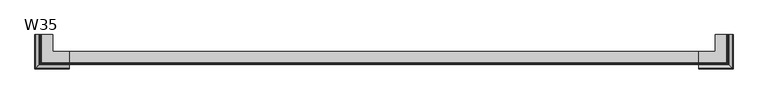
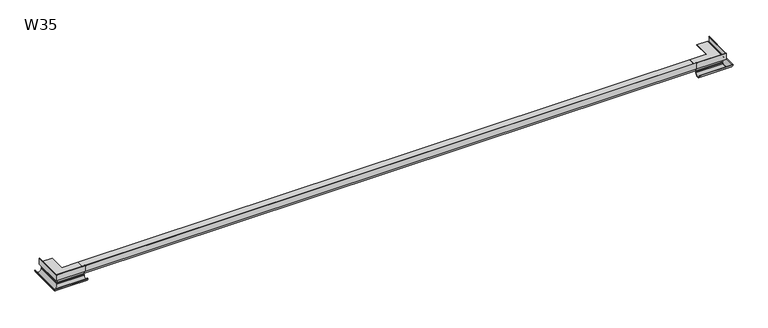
"""IFC4 building model written with IfcOpenShell, lengths in millimetres: proxy geometry, W35 Profil okapowy prosty z rynną : W35."""

from ifc_helpers import new_model, si_unit, point, frame, frame_2d, origin, place, context, project, spatial, polyline, circle_curve, ellipse_curve, trimmed, segment, composite_curve, outline, extrude, source, transform, mapped, element, save
from ifc_brep_helpers import plane_surface, cylinder_surface, revolved_surface, advanced_brep


def w35_59df81f5(model_context):
    return source(origin(), model_context, "Body", "SolidModel", [
        advanced_brep(
        [(4906.833631, -6.5000001, -78.3470452), (4906.833631, -5.0999988, -76.9470438), (4906.833631, -5.0999988, -82.0662981), (4906.833631, -7.6128151, -84.4111711), (4906.833631, -8.1261224, -88.0635409), (4906.833631, -4.8412617, -86.6692004), (4906.833631, -5.621057, -88.6176262), (4906.833631, -8.427087, -90.2030013), (4906.833631, -58.1999995, -86.8410366), (4906.833631, -56.7240776, -88.7325307), (4906.833631, -9.7348852, -89.3606424), (4906.833631, -8.8685397, -83.6069515), (4906.833631, -6.5000001, -81.3112902), (5114.9597534, -8.1261224, -88.0635409), (5111.6748927, -4.8412617, -86.6692004), (5112.454688, -5.621057, -88.6176262), (5115.260718, -8.427087, -90.2030013), (5165.0336305, -58.1999995, -86.8410366), (5163.5577086, -56.7240776, -88.7325307), (5116.5685163, -9.7348852, -89.3606424), (5115.7021707, -8.8685397, -83.6069515), (5114.4464461, -7.6128151, -84.4111711), (5113.3336312, 200.0, -78.3470452), (5113.3336312, 200.0, -81.3112902), (5115.7021707, 200.0, -83.6069515), (5116.5685163, 200.0, -89.3606424), (5163.5577086, 200.0, -88.7325307), (5165.0336305, 200.0, -86.8410366), (5115.260718, 200.0, -90.2030013), (5112.454688, 200.0, -88.6176262), (5111.6748927, 200.0, -86.6692004), (5114.9597534, 200.0, -88.0635409), (5114.4464461, 200.0, -84.4111711), (5111.9336298, 200.0, -82.0662981), (5111.9336298, 200.0, -76.9470438), (5113.3336312, -6.5000001, -78.3470452), (5111.9336298, -5.0999988, -76.9470438), (5111.9336298, -5.0999988, -82.0662981), (5113.3336312, -6.5000001, -81.3112902)],
        [
            (0, 1),
            (1, 2),
            (2, 3),
            (3, 4),
            (4, 5),
            (5, 6),
            (6, 7),
            (7, 8, circle_curve(frame((4906.833631, -33.1999995, -86.8410366), z_axis=(-1.0, 0.0, 0.0), x_axis=(0.0, -1.0, 0.0)), 25.0)),
            (8, 9, circle_curve(frame((4906.833631, -56.2499995, -86.8410366), z_axis=(-1.0, 0.0, 0.0), x_axis=(0.0, -1.0, 0.0)), 1.95)),
            (9, 10, circle_curve(frame((4906.833631, -33.1999995, -86.8410366), z_axis=(1.0, 0.0, 0.0), x_axis=(0.0, -1.0, 0.0)), 23.6)),
            (10, 11),
            (11, 12),
            (12, 0),
            (4, 13),
            (13, 14),
            (14, 5),
            (14, 15),
            (15, 6),
            (15, 16),
            (16, 7),
            (16, 17, ellipse_curve(frame((5140.0336305, -33.1999995, -86.8410366), z_axis=(-0.7071067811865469, -0.707106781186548, 0.0), x_axis=(-0.7071067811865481, 0.7071067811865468, 0.0)), 35.3553391, 25.0)),
            (17, 8),
            (17, 18, ellipse_curve(frame((5163.0836305, -56.2499995, -86.8410366), z_axis=(-0.7071067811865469, -0.707106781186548, 0.0), x_axis=(-0.7071067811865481, 0.7071067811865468, 0.0)), 2.7577164, 1.95)),
            (18, 9),
            (18, 19, ellipse_curve(frame((5140.0336305, -33.1999995, -86.8410366), z_axis=(0.7071067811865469, 0.707106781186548, 0.0), x_axis=(0.7071067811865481, -0.7071067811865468, 0.0)), 33.3754401, 23.6)),
            (19, 10),
            (19, 20),
            (20, 11),
            (3, 21),
            (21, 13),
            (22, 23),
            (23, 24),
            (24, 25),
            (25, 26, circle_curve(frame((5140.0336305, 200.0, -86.8410366), z_axis=(0.0, -1.0, 0.0), x_axis=(1.0, 0.0, 0.0)), 23.6)),
            (26, 27, circle_curve(frame((5163.0836305, 200.0, -86.8410366), z_axis=(0.0, 1.0, 0.0), x_axis=(1.0, 0.0, 0.0)), 1.95)),
            (27, 28, circle_curve(frame((5140.0336305, 200.0, -86.8410366), z_axis=(0.0, 1.0, 0.0), x_axis=(1.0, 0.0, 0.0)), 25.0)),
            (28, 29),
            (29, 30),
            (30, 31),
            (31, 32),
            (32, 33),
            (33, 34),
            (34, 22),
            (13, 31),
            (30, 14),
            (29, 15),
            (28, 16),
            (27, 17),
            (26, 18),
            (25, 19),
            (24, 20),
            (21, 32),
            (0, 35),
            (35, 36),
            (36, 1),
            (36, 37),
            (37, 2),
            (37, 21),
            (20, 38),
            (38, 12),
            (38, 35),
            (35, 22),
            (34, 36),
            (33, 37),
            (23, 38),
        ],
        [
            plane_surface(frame((4906.833631, 0.0, -36.1934933), z_axis=(-1.0, 0.0, 0.0), x_axis=(0.0, 0.0, 1.0))),
            plane_surface(frame((4906.833631, -4.8412617, -86.6692004), z_axis=(0.0, -0.3907310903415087, 0.9205048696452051), x_axis=(1.0, 0.0, 0.0))),
            plane_surface(frame((4906.833631, -5.621057, -88.6176262), z_axis=(0.0, 0.9284068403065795, -0.37156525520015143), x_axis=(1.0, 0.0, 0.0))),
            plane_surface(frame((4906.833631, -8.427087, -90.2030013), z_axis=(0.0, 0.49190631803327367, -0.8706481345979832), x_axis=(1.0, 0.0, 0.0))),
            cylinder_surface(frame((4906.833631, -33.1999995, -86.8410366), z_axis=(-1.0, 0.0, 0.0), x_axis=(0.0, -1.0, 0.0)), 25.0),
            cylinder_surface(frame((4906.833631, -56.2499995, -86.8410366), z_axis=(-1.0, 0.0, 0.0), x_axis=(0.0, -1.0, 0.0)), 1.95),
            revolved_surface(polyline([(5163.633630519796, -56.7999995, -86.8410366), (4906.833631, -56.7999995, -86.8410366)]), (4906.833631, -33.1999995, -86.8410366), (1.0, 0.0, 0.0)),
            plane_surface(frame((4906.833631, -8.8685397, -83.6069515), z_axis=(0.0, -0.9888532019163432, 0.14889373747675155), x_axis=(1.0, 0.0, 0.0))),
            plane_surface(frame((4906.833631, -8.1261224, -88.0635409), z_axis=(0.0, 0.9902680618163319, -0.13917315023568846), x_axis=(1.0, 0.0, 0.0))),
            plane_surface(frame((5106.833631, 200.0, -36.1934933), z_axis=(0.0, 1.0, 0.0), x_axis=(0.0, 0.0, 1.0))),
            plane_surface(frame((5111.6748927, -4.8412617, -86.6692004), z_axis=(0.3907310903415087, 0.0, 0.9205048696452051), x_axis=(0.0, 1.0, 0.0))),
            plane_surface(frame((5112.454688, -5.621057, -88.6176262), z_axis=(-0.9284068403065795, 0.0, -0.37156525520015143), x_axis=(0.0, 1.0, 0.0))),
            plane_surface(frame((5115.260718, -8.427087, -90.2030013), z_axis=(-0.49190631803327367, 0.0, -0.8706481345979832), x_axis=(0.0, 1.0, 0.0))),
            cylinder_surface(frame((5140.0336305, 0.0, -86.8410366), z_axis=(0.0, -1.0, 0.0), x_axis=(1.0, 0.0, 0.0)), 25.0),
            cylinder_surface(frame((5163.0836305, 0.0, -86.8410366), z_axis=(0.0, -1.0, 0.0), x_axis=(1.0, 0.0, 0.0)), 1.95),
            revolved_surface(polyline([(5163.6336305, 200.0, -86.8410366), (5163.6336305, -56.79999951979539, -86.8410366)]), (5140.0336305, 0.0, -86.8410366), (0.0, 1.0, 0.0)),
            plane_surface(frame((5115.7021707, -8.8685397, -83.6069515), z_axis=(0.9888532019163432, 0.0, 0.14889373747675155), x_axis=(0.0, 1.0, 0.0))),
            plane_surface(frame((5114.9597534, -8.1261224, -88.0635409), z_axis=(-0.9902680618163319, 0.0, -0.13917315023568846), x_axis=(0.0, 1.0, 0.0))),
            plane_surface(frame((4906.833631, -5.0999988, -76.9470438), z_axis=(0.0, -0.7071067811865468, 0.7071067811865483), x_axis=(1.0, 0.0, 0.0))),
            plane_surface(frame((4906.833631, -5.0999988, -82.0662981), z_axis=(0.0, 1.0, 0.0), x_axis=(1.0, 0.0, 0.0))),
            plane_surface(frame((4906.833631, -7.6128151, -84.4111711), z_axis=(0.0, 0.6822525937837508, -0.7311165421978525), x_axis=(1.0, 0.0, 0.0))),
            plane_surface(frame((4906.833631, -6.5000001, -81.3112902), z_axis=(0.0, -0.6959732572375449, 0.7180677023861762), x_axis=(1.0, 0.0, 0.0))),
            plane_surface(frame((4906.833631, -6.5000001, -78.3470452), z_axis=(0.0, -1.0, 0.0), x_axis=(1.0, 0.0, 0.0))),
            plane_surface(frame((5111.9336298, -5.0999988, -76.9470438), z_axis=(0.7071067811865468, 0.0, 0.7071067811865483), x_axis=(0.0, 1.0, 0.0))),
            plane_surface(frame((5111.9336298, -5.0999988, -82.0662981), z_axis=(-1.0, 0.0, 0.0), x_axis=(0.0, 1.0, 0.0))),
            plane_surface(frame((5114.4464461, -7.6128151, -84.4111711), z_axis=(-0.6822525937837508, 0.0, -0.7311165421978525), x_axis=(0.0, 1.0, 0.0))),
            plane_surface(frame((5113.3336312, -6.5000001, -81.3112902), z_axis=(0.6959732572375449, 0.0, 0.7180677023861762), x_axis=(0.0, 1.0, 0.0))),
            plane_surface(frame((5113.3336312, -6.5000001, -78.3470452), z_axis=(1.0, 0.0, 0.0), x_axis=(0.0, 1.0, 0.0))),
        ],
        [
            (0, [[1, 2, 3, 4, 5, 6, 7, 8, 9, 10, 11, 12, 13]]),
            (1, [[14, 15, 16, -5]]),
            (2, [[-16, 17, 18, -6]]),
            (3, [[-18, 19, 20, -7]]),
            (4, [[-20, 21, 22, -8]]),
            (5, [[-22, 23, 24, -9]]),
            (6, [[-24, 25, 26, -10]]),
            (7, [[-26, 27, 28, -11]]),
            (8, [[29, 30, -14, -4]]),
            (9, [[31, 32, 33, 34, 35, 36, 37, 38, 39, 40, 41, 42, 43]]),
            (10, [[44, -39, 45, -15]]),
            (11, [[-45, -38, 46, -17]]),
            (12, [[-46, -37, 47, -19]]),
            (13, [[-47, -36, 48, -21]]),
            (14, [[-48, -35, 49, -23]]),
            (15, [[-49, -34, 50, -25]]),
            (16, [[-50, -33, 51, -27]]),
            (17, [[52, -40, -44, -30]]),
            (18, [[53, 54, 55, -1]]),
            (19, [[-55, 56, 57, -2]]),
            (20, [[-57, 58, -29, -3]]),
            (21, [[-28, 59, 60, -12]]),
            (22, [[-60, 61, -53, -13]]),
            (23, [[62, -43, 63, -54]]),
            (24, [[-63, -42, 64, -56]]),
            (25, [[-64, -41, -52, -58]]),
            (26, [[-51, -32, 65, -59]]),
            (27, [[-65, -31, -62, -61]]),
        ],
    ),
        advanced_brep(
        [(4906.833631, -6.3, -36.4910353), (4906.833631, -6.2999998, -76.1910353), (4906.833631, -7.7999998, -76.1910353), (4906.833631, -7.7999998, -43.2910354), (4906.833631, -22.3999998, -43.2910354), (4906.833631, -22.3999998, -47.1445885), (4906.833631, -23.8999999, -48.6445886), (4906.833631, -23.8999999, -2.2484524), (4906.833631, -22.0842103, 0.0), (4906.833631, -21.7670262, -1.4856589), (4906.833631, -22.3999998, -2.2680357), (4906.833631, -22.3999997, -41.7910352), (4906.833631, -7.7999998, -41.7910352), (4906.833631, -7.7999998, -36.4910353), (4906.833631, -10.7999998, -36.4910353), (4906.833631, -13.1999998, -38.2910353), (4906.833631, -14.7321921, -38.2910353), (4906.833631, -10.7999999, -34.9910353), (4906.833631, 73.7000001, -34.9910353), (4906.833631, 73.7000001, -36.4910353), (5113.133631, 200.0, -36.4910353), (5033.133631, 200.0, -36.4910353), (5033.133631, 200.0, -34.9910353), (5117.6336309, 200.0, -34.9910353), (5121.5658231, 200.0, -38.2910353), (5120.0336308, 200.0, -38.2910353), (5117.6336308, 200.0, -36.4910353), (5114.6336308, 200.0, -36.4910353), (5114.6336308, 200.0, -41.7910352), (5129.2336307, 200.0, -41.7910352), (5129.2336307, 200.0, -2.2680357), (5128.6006573, 200.0, -1.4856589), (5128.9178414, 200.0, 0.0), (5130.7336309, 200.0, -2.2484524), (5130.7336309, 200.0, -48.6445886), (5129.2336308, 200.0, -47.1445885), (5129.2336308, 200.0, -43.2910354), (5114.6336308, 200.0, -43.2910354), (5114.6336308, 200.0, -76.1910353), (5113.1336308, 200.0, -76.1910353), (5113.133631, -6.3, -36.4910353), (5113.1336308, -6.2999998, -76.1910353), (5129.2336307, -22.3999997, -41.7910352), (5114.6336308, -7.7999998, -41.7910352), (5114.6336308, -7.7999998, -76.1910353), (5114.6336308, -7.7999998, -43.2910354), (5033.133631, 73.7000001, -36.4910353), (5033.133631, 73.7000001, -34.9910353), (5117.6336309, -10.7999999, -34.9910353), (5121.5658231, -14.7321921, -38.2910353), (5120.0336308, -13.1999998, -38.2910353), (5117.6336308, -10.7999998, -36.4910353), (5114.6336308, -7.7999998, -36.4910353), (5129.2336308, -22.3999997, -2.2680357), (5128.6006573, -21.7670262, -1.4856589), (5128.9178414, -22.0842103, 0.0), (5130.7336309, -23.8999999, -2.2484524), (5130.7336309, -23.8999999, -48.6445886), (5129.2336308, -22.3999998, -47.1445885), (5129.2336308, -22.3999998, -43.2910354)],
        [
            (0, 1),
            (1, 2),
            (2, 3),
            (3, 4),
            (4, 5),
            (5, 6),
            (6, 7),
            (7, 8, circle_curve(frame((4906.833631, -21.6000005, -2.2484524), z_axis=(-1.0, 0.0, 0.0), x_axis=(0.0, -0.7779865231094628, 0.6282809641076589)), 2.2999994)),
            (8, 9),
            (9, 10, circle_curve(frame((4906.833631, -21.599991, -2.2680357), z_axis=(1.0, 0.0, 0.0), x_axis=(0.0, -0.23810367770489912, 0.9712397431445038)), 0.8000089)),
            (10, 11),
            (11, 12),
            (12, 13),
            (13, 14),
            (14, 15, circle_curve(frame((4906.833631, -10.7999998, -38.9910353), z_axis=(1.0, 0.0, 0.0), x_axis=(0.0, 0.0, 1.0)), 2.5)),
            (15, 16),
            (16, 17, circle_curve(frame((4906.833631, -10.8043333, -38.9786195), z_axis=(-1.0, 0.0, 0.0), x_axis=(0.0, -0.9749128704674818, 0.2225868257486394)), 3.9875866)),
            (17, 18),
            (18, 19),
            (19, 0),
            (20, 21),
            (21, 22),
            (22, 23),
            (23, 24, circle_curve(frame((5117.6379643, 200.0, -38.9786195), z_axis=(0.0, 1.0, 0.0), x_axis=(0.9749128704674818, 0.0, 0.2225868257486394)), 3.9875866)),
            (24, 25),
            (25, 26, circle_curve(frame((5117.6336308, 200.0, -38.9910353), z_axis=(0.0, -1.0, 0.0), x_axis=(0.0, 0.0, 1.0)), 2.5)),
            (26, 27),
            (27, 28),
            (28, 29),
            (29, 30),
            (30, 31, circle_curve(frame((5128.433622, 200.0, -2.2680357), z_axis=(0.0, -1.0, 0.0), x_axis=(0.23810367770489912, 0.0, 0.9712397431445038)), 0.8000089)),
            (31, 32),
            (32, 33, circle_curve(frame((5128.4336316, 200.0, -2.2484524), z_axis=(0.0, 1.0, 0.0), x_axis=(0.7779865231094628, 0.0, 0.6282809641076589)), 2.2999994)),
            (33, 34),
            (34, 35),
            (35, 36),
            (36, 37),
            (37, 38),
            (38, 39),
            (39, 20),
            (0, 40),
            (40, 41),
            (41, 1),
            (11, 42),
            (42, 29),
            (28, 43),
            (43, 12),
            (2, 44),
            (44, 45),
            (45, 3),
            (40, 20),
            (39, 41),
            (44, 38),
            (37, 45),
            (19, 46),
            (46, 21),
            (18, 47),
            (47, 46),
            (17, 48),
            (48, 23),
            (22, 47),
            (16, 49),
            (49, 48, ellipse_curve(frame((5117.6379643, -10.8043333, -38.9786195), z_axis=(-0.7071067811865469, -0.707106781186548, 0.0), x_axis=(-0.7071067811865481, 0.7071067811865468, 0.0)), 5.639299, 3.9875866)),
            (15, 50),
            (50, 25),
            (24, 49),
            (14, 51),
            (51, 50, ellipse_curve(frame((5117.6336308, -10.7999998, -38.9910353), z_axis=(0.7071067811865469, 0.707106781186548, 0.0), x_axis=(0.7071067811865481, -0.7071067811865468, 0.0)), 3.5355339, 2.5)),
            (13, 52),
            (52, 27),
            (26, 51),
            (43, 52),
            (10, 53),
            (53, 42),
            (9, 54),
            (54, 53, ellipse_curve(frame((5128.433622, -21.599991, -2.2680357), z_axis=(0.7071067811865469, 0.707106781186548, 0.0), x_axis=(0.7071067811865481, -0.7071067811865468, 0.0)), 1.1313834, 0.8000089)),
            (8, 55),
            (55, 54),
            (7, 56),
            (56, 55, ellipse_curve(frame((5128.4336316, -21.6000005, -2.2484524), z_axis=(-0.7071067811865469, -0.707106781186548, 0.0), x_axis=(-0.7071067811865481, 0.7071067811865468, 0.0)), 3.2526903, 2.2999994)),
            (6, 57),
            (57, 56),
            (5, 58),
            (58, 57),
            (4, 59),
            (59, 58),
            (36, 59),
            (53, 30),
            (54, 31),
            (55, 32),
            (56, 33),
            (57, 34),
            (58, 35),
        ],
        [
            plane_surface(frame((4906.833631, 0.0, -36.1934933), z_axis=(-1.0, 0.0, 0.0), x_axis=(0.0, 0.0, 1.0))),
            plane_surface(frame((5106.833631, 200.0, -36.1934933), z_axis=(0.0, 1.0, 0.0), x_axis=(0.0, 0.0, 1.0))),
            plane_surface(frame((4906.833631, -6.2999998, -76.1910353), z_axis=(0.0, 1.0, 4.928761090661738e-09), x_axis=(1.0, 0.0, 0.0))),
            plane_surface(frame((4906.833631, -7.7999998, -41.7910352), z_axis=(0.0, 0.0, 1.0), x_axis=(1.0, 0.0, 0.0))),
            plane_surface(frame((4906.833631, -7.7999998, -43.2910354), z_axis=(0.0, -1.0, 0.0), x_axis=(1.0, 0.0, 0.0))),
            plane_surface(frame((5113.1336308, -6.2999998, -76.1910353), z_axis=(-1.0, 0.0, 4.928761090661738e-09), x_axis=(0.0, 1.0, 0.0))),
            plane_surface(frame((5114.6336308, -7.7999998, -43.2910354), z_axis=(1.0, 0.0, 0.0), x_axis=(0.0, 1.0, 0.0))),
            plane_surface(frame((4906.833631, -6.3, -36.4910353), z_axis=(0.0, 0.0, -1.0), x_axis=(1.0, 0.0, 0.0))),
            plane_surface(frame((4906.833631, 73.7000001, -36.4910353), z_axis=(0.0, 1.0, 0.0), x_axis=(1.0, 0.0, 0.0))),
            plane_surface(frame((4906.833631, 73.7000001, -34.9910353), z_axis=(0.0, 0.0, 1.0), x_axis=(1.0, 0.0, 0.0))),
            cylinder_surface(frame((4906.833631, -10.8043333, -38.9786195), z_axis=(-1.0, 0.0, 0.0), x_axis=(0.0, -0.9749128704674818, 0.2225868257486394)), 3.9875866),
            plane_surface(frame((4906.833631, -14.7321921, -38.2910353), z_axis=(0.0, 0.0, -1.0), x_axis=(1.0, 0.0, 0.0))),
            revolved_surface(polyline([(5120.1336307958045, -10.7999998, -36.4910353), (4906.833631, -10.7999998, -36.4910353)]), (4906.833631, -10.7999998, -38.9910353), (1.0, 0.0, 0.0)),
            plane_surface(frame((4906.833631, -10.7999998, -36.4910353), z_axis=(0.0, 0.0, -1.0), x_axis=(1.0, 0.0, 0.0))),
            plane_surface(frame((4906.833631, -7.7999998, -36.4910353), z_axis=(0.0, -1.0, 0.0), x_axis=(1.0, 0.0, 0.0))),
            plane_surface(frame((4906.833631, -22.3999997, -41.7910352), z_axis=(0.0, 1.0, 0.0), x_axis=(1.0, 0.0, 0.0))),
            revolved_surface(polyline([(5129.2336308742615, -21.79047606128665, -1.491035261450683), (4906.833631, -21.79047606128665, -1.491035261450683)]), (4906.833631, -21.599991, -2.2680357), (1.0000000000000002, 0.0, 0.0)),
            plane_surface(frame((4906.833631, -21.7670262, -1.4856589), z_axis=(0.0, 0.9779601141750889, 0.20879179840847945), x_axis=(1.0, 0.0, 0.0))),
            cylinder_surface(frame((4906.833631, -21.6000005, -2.2484524), z_axis=(-1.0, 0.0, 0.0), x_axis=(0.0, -0.7779865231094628, 0.6282809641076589)), 2.2999994),
            plane_surface(frame((4906.833631, -23.8999999, -2.2484524), z_axis=(0.0, -1.0, 0.0), x_axis=(1.0, 0.0, 0.0))),
            plane_surface(frame((4906.833631, -23.8999999, -48.6445886), z_axis=(0.0, 0.707106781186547, -0.707106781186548), x_axis=(1.0, 0.0, 0.0))),
            plane_surface(frame((4906.833631, -22.3999998, -47.1445885), z_axis=(0.0, 1.0, 0.0), x_axis=(1.0, 0.0, 0.0))),
            plane_surface(frame((4906.833631, -22.3999998, -43.2910354), z_axis=(0.0, 0.0, -1.0), x_axis=(1.0, 0.0, 0.0))),
            plane_surface(frame((4906.833631, -7.7999998, -76.1910353), z_axis=(0.0, 0.0, -1.0), x_axis=(1.0, 0.0, 0.0))),
            plane_surface(frame((5033.133631, 73.7000001, -36.4910353), z_axis=(-1.0, 0.0, 0.0), x_axis=(0.0, 1.0, 0.0))),
            cylinder_surface(frame((5117.6379643, 0.0, -38.9786195), z_axis=(0.0, -1.0, 0.0), x_axis=(0.9749128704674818, 0.0, 0.2225868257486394)), 3.9875866),
            revolved_surface(polyline([(5117.6336308, 200.0, -36.4910353), (5117.6336308, -13.299999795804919, -36.4910353)]), (5117.6336308, 0.0, -38.9910353), (0.0, 1.0, 0.0)),
            plane_surface(frame((5114.6336308, -7.7999998, -36.4910353), z_axis=(1.0, 0.0, 0.0), x_axis=(0.0, 1.0, 0.0))),
            plane_surface(frame((5129.2336307, -22.3999997, -41.7910352), z_axis=(-1.0, 0.0, 0.0), x_axis=(0.0, 1.0, 0.0))),
            revolved_surface(polyline([(5128.624107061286, 200.0000000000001, -1.491035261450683), (5128.624107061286, -22.399999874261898, -1.491035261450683)]), (5128.433622, 0.0, -2.2680357), (0.0, 1.0000000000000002, 0.0)),
            plane_surface(frame((5128.6006573, -21.7670262, -1.4856589), z_axis=(-0.9779601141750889, 0.0, 0.20879179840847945), x_axis=(0.0, 1.0, 0.0))),
            cylinder_surface(frame((5128.4336316, 0.0, -2.2484524), z_axis=(0.0, -1.0, 0.0), x_axis=(0.7779865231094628, 0.0, 0.6282809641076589)), 2.2999994),
            plane_surface(frame((5130.7336309, -23.8999999, -2.2484524), z_axis=(1.0, 0.0, 0.0), x_axis=(0.0, 1.0, 0.0))),
            plane_surface(frame((5130.7336309, -23.8999999, -48.6445886), z_axis=(-0.707106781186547, 0.0, -0.707106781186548), x_axis=(0.0, 1.0, 0.0))),
            plane_surface(frame((5129.2336308, -22.3999998, -47.1445885), z_axis=(-1.0, 0.0, 0.0), x_axis=(0.0, 1.0, 0.0))),
        ],
        [
            (0, [[1, 2, 3, 4, 5, 6, 7, 8, 9, 10, 11, 12, 13, 14, 15, 16, 17, 18, 19, 20]]),
            (1, [[21, 22, 23, 24, 25, 26, 27, 28, 29, 30, 31, 32, 33, 34, 35, 36, 37, 38, 39, 40]]),
            (2, [[41, 42, 43, -1]]),
            (3, [[44, 45, -29, 46, 47, -12]]),
            (4, [[48, 49, 50, -3]]),
            (5, [[51, -40, 52, -42]]),
            (6, [[53, -38, 54, -49]]),
            (7, [[55, 56, -21, -51, -41, -20]]),
            (8, [[57, 58, -55, -19]]),
            (9, [[59, 60, -23, 61, -57, -18]]),
            (10, [[62, 63, -59, -17]]),
            (11, [[64, 65, -25, 66, -62, -16]]),
            (12, [[67, 68, -64, -15]]),
            (13, [[69, 70, -27, 71, -67, -14]]),
            (14, [[-47, 72, -69, -13]]),
            (15, [[73, 74, -44, -11]]),
            (16, [[75, 76, -73, -10]]),
            (17, [[77, 78, -75, -9]]),
            (18, [[79, 80, -77, -8]]),
            (19, [[81, 82, -79, -7]]),
            (20, [[83, 84, -81, -6]]),
            (21, [[85, 86, -83, -5]]),
            (22, [[-50, -54, -37, 87, -85, -4]]),
            (23, [[-43, -52, -39, -53, -48, -2]]),
            (24, [[-61, -22, -56, -58]]),
            (25, [[-66, -24, -60, -63]]),
            (26, [[-71, -26, -65, -68]]),
            (27, [[-46, -28, -70, -72]]),
            (28, [[88, -30, -45, -74]]),
            (29, [[89, -31, -88, -76]]),
            (30, [[90, -32, -89, -78]]),
            (31, [[91, -33, -90, -80]]),
            (32, [[92, -34, -91, -82]]),
            (33, [[93, -35, -92, -84]]),
            (34, [[-87, -36, -93, -86]]),
        ],
    ),
        advanced_brep(
        [(200.0, -6.5000001, -78.3470452), (200.0, -6.5000001, -81.3112902), (200.0, -8.8685397, -83.6069515), (200.0, -9.7348852, -89.3606424), (200.0, -56.7240776, -88.7325307), (200.0, -58.1999995, -86.8410366), (200.0, -8.427087, -90.2030013), (200.0, -5.621057, -88.6176262), (200.0, -4.8412617, -86.6692004), (200.0, -8.1261224, -88.0635409), (200.0, -7.6128151, -84.4111711), (200.0, -5.0999988, -82.0662981), (200.0, -5.0999988, -76.9470438), (-4.8412617, -4.8412617, -86.6692004), (-8.1261224, -8.1261224, -88.0635409), (-5.621057, -5.621057, -88.6176262), (-8.427087, -8.427087, -90.2030013), (-58.1999995, -58.1999995, -86.8410366), (-56.7240776, -56.7240776, -88.7325307), (-9.7348852, -9.7348852, -89.3606424), (-8.8685397, -8.8685397, -83.6069515), (-7.6128151, -7.6128151, -84.4111711), (-6.5000001, 200.0, -78.3470452), (-5.0999988, 200.0, -76.9470438), (-5.0999988, 200.0, -82.0662981), (-7.6128151, 200.0, -84.4111711), (-8.1261224, 200.0, -88.0635409), (-4.8412617, 200.0, -86.6692004), (-5.621057, 200.0, -88.6176262), (-8.427087, 200.0, -90.2030013), (-58.1999995, 200.0, -86.8410366), (-56.7240776, 200.0, -88.7325307), (-9.7348852, 200.0, -89.3606424), (-8.8685397, 200.0, -83.6069515), (-6.5000001, 200.0, -81.3112902), (-5.0999988, -5.0999988, -76.9470438), (-6.5000001, -6.5000001, -78.3470452), (-5.0999988, -5.0999988, -82.0662981), (-6.5000001, -6.5000001, -81.3112902)],
        [
            (0, 1),
            (1, 2),
            (2, 3),
            (3, 4, circle_curve(frame((200.0, -33.1999995, -86.8410366), z_axis=(-1.0, 0.0, 0.0), x_axis=(0.0, -1.0, 0.0)), 23.6)),
            (4, 5, circle_curve(frame((200.0, -56.2499995, -86.8410366), z_axis=(1.0, 0.0, 0.0), x_axis=(0.0, -1.0, 0.0)), 1.95)),
            (5, 6, circle_curve(frame((200.0, -33.1999995, -86.8410366), z_axis=(1.0, 0.0, 0.0), x_axis=(0.0, -1.0, 0.0)), 25.0)),
            (6, 7),
            (7, 8),
            (8, 9),
            (9, 10),
            (10, 11),
            (11, 12),
            (12, 0),
            (8, 13),
            (13, 14),
            (14, 9),
            (7, 15),
            (15, 13),
            (6, 16),
            (16, 15),
            (5, 17),
            (17, 16, ellipse_curve(frame((-33.1999995, -33.1999995, -86.8410366), z_axis=(0.7071067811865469, -0.707106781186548, 0.0), x_axis=(0.7071067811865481, 0.7071067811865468, 0.0)), 35.3553391, 25.0)),
            (4, 18),
            (18, 17, ellipse_curve(frame((-56.2499995, -56.2499995, -86.8410366), z_axis=(0.7071067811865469, -0.707106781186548, 0.0), x_axis=(0.7071067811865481, 0.7071067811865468, 0.0)), 2.7577164, 1.95)),
            (3, 19),
            (19, 18, ellipse_curve(frame((-33.1999995, -33.1999995, -86.8410366), z_axis=(-0.7071067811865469, 0.707106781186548, 0.0), x_axis=(-0.7071067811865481, -0.7071067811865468, 0.0)), 33.3754401, 23.6)),
            (2, 20),
            (20, 19),
            (14, 21),
            (21, 10),
            (22, 23),
            (23, 24),
            (24, 25),
            (25, 26),
            (26, 27),
            (27, 28),
            (28, 29),
            (29, 30, circle_curve(frame((-33.1999995, 200.0, -86.8410366), z_axis=(0.0, 1.0, 0.0), x_axis=(-1.0, 0.0, 0.0)), 25.0)),
            (30, 31, circle_curve(frame((-56.2499995, 200.0, -86.8410366), z_axis=(0.0, 1.0, 0.0), x_axis=(-1.0, 0.0, 0.0)), 1.95)),
            (31, 32, circle_curve(frame((-33.1999995, 200.0, -86.8410366), z_axis=(0.0, -1.0, 0.0), x_axis=(-1.0, 0.0, 0.0)), 23.6)),
            (32, 33),
            (33, 34),
            (34, 22),
            (13, 27),
            (26, 14),
            (15, 28),
            (16, 29),
            (17, 30),
            (18, 31),
            (19, 32),
            (20, 33),
            (25, 21),
            (12, 35),
            (35, 36),
            (36, 0),
            (11, 37),
            (37, 35),
            (21, 37),
            (1, 38),
            (38, 20),
            (36, 38),
            (35, 23),
            (22, 36),
            (37, 24),
            (38, 34),
        ],
        [
            plane_surface(frame((200.0, 0.0, -36.1934933), z_axis=(1.0, 0.0, 0.0), x_axis=(0.0, 0.0, 1.0))),
            plane_surface(frame((200.0, -4.8412617, -86.6692004), z_axis=(0.0, -0.3907310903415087, 0.9205048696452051), x_axis=(-1.0, 0.0, 0.0))),
            plane_surface(frame((200.0, -5.621057, -88.6176262), z_axis=(0.0, 0.9284068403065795, -0.37156525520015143), x_axis=(-1.0, 0.0, 0.0))),
            plane_surface(frame((200.0, -8.427087, -90.2030013), z_axis=(0.0, 0.49190631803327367, -0.8706481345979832), x_axis=(-1.0, 0.0, 0.0))),
            cylinder_surface(frame((200.0, -33.1999995, -86.8410366), z_axis=(1.0, 0.0, 0.0), x_axis=(0.0, -1.0, 0.0)), 25.0),
            cylinder_surface(frame((200.0, -56.2499995, -86.8410366), z_axis=(1.0, 0.0, 0.0), x_axis=(0.0, -1.0, 0.0)), 1.95),
            revolved_surface(polyline([(-56.79999951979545, -56.7999995, -86.8410366), (200.0, -56.7999995, -86.8410366)]), (200.0, -33.1999995, -86.8410366), (-1.0, 0.0, 0.0)),
            plane_surface(frame((200.0, -8.8685397, -83.6069515), z_axis=(0.0, -0.9888532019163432, 0.14889373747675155), x_axis=(-1.0, 0.0, 0.0))),
            plane_surface(frame((200.0, -8.1261224, -88.0635409), z_axis=(0.0, 0.9902680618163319, -0.13917315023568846), x_axis=(-1.0, 0.0, 0.0))),
            plane_surface(frame((0.0, 200.0, -36.1934933), z_axis=(0.0, 1.0, 0.0), x_axis=(0.0, 0.0, 1.0))),
            plane_surface(frame((-4.8412617, -4.8412617, -86.6692004), z_axis=(-0.3907310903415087, 0.0, 0.9205048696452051), x_axis=(0.0, 1.0, 0.0))),
            plane_surface(frame((-5.621057, -5.621057, -88.6176262), z_axis=(0.9284068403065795, 0.0, -0.37156525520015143), x_axis=(0.0, 1.0, 0.0))),
            plane_surface(frame((-8.427087, -8.427087, -90.2030013), z_axis=(0.49190631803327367, 0.0, -0.8706481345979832), x_axis=(0.0, 1.0, 0.0))),
            cylinder_surface(frame((-33.1999995, 0.0, -86.8410366), z_axis=(0.0, -1.0, 0.0), x_axis=(-1.0, 0.0, 0.0)), 25.0),
            cylinder_surface(frame((-56.2499995, 0.0, -86.8410366), z_axis=(0.0, -1.0, 0.0), x_axis=(-1.0, 0.0, 0.0)), 1.95),
            revolved_surface(polyline([(-56.7999995, 200.0, -86.8410366), (-56.7999995, -56.79999951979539, -86.8410366)]), (-33.1999995, 0.0, -86.8410366), (0.0, 1.0, 0.0)),
            plane_surface(frame((-8.8685397, -8.8685397, -83.6069515), z_axis=(-0.9888532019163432, 0.0, 0.14889373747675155), x_axis=(0.0, 1.0, 0.0))),
            plane_surface(frame((-8.1261224, -8.1261224, -88.0635409), z_axis=(0.9902680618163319, 0.0, -0.13917315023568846), x_axis=(0.0, 1.0, 0.0))),
            plane_surface(frame((200.0, -5.0999988, -76.9470438), z_axis=(0.0, -0.7071067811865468, 0.7071067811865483), x_axis=(-1.0, 0.0, 0.0))),
            plane_surface(frame((200.0, -5.0999988, -82.0662981), z_axis=(0.0, 1.0, 0.0), x_axis=(-1.0, 0.0, 0.0))),
            plane_surface(frame((200.0, -7.6128151, -84.4111711), z_axis=(0.0, 0.6822525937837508, -0.7311165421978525), x_axis=(-1.0, 0.0, 0.0))),
            plane_surface(frame((200.0, -6.5000001, -81.3112902), z_axis=(0.0, -0.6959732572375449, 0.7180677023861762), x_axis=(-1.0, 0.0, 0.0))),
            plane_surface(frame((200.0, -6.5000001, -78.3470452), z_axis=(0.0, -1.0, 0.0), x_axis=(-1.0, 0.0, 0.0))),
            plane_surface(frame((-5.0999988, -5.0999988, -76.9470438), z_axis=(-0.7071067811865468, 0.0, 0.7071067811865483), x_axis=(0.0, 1.0, 0.0))),
            plane_surface(frame((-5.0999988, -5.0999988, -82.0662981), z_axis=(1.0, 0.0, 0.0), x_axis=(0.0, 1.0, 0.0))),
            plane_surface(frame((-7.6128151, -7.6128151, -84.4111711), z_axis=(0.6822525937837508, 0.0, -0.7311165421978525), x_axis=(0.0, 1.0, 0.0))),
            plane_surface(frame((-6.5000001, -6.5000001, -81.3112902), z_axis=(-0.6959732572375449, 0.0, 0.7180677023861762), x_axis=(0.0, 1.0, 0.0))),
            plane_surface(frame((-6.5000001, -6.5000001, -78.3470452), z_axis=(-1.0, 0.0, 0.0), x_axis=(0.0, 1.0, 0.0))),
        ],
        [
            (0, [[1, 2, 3, 4, 5, 6, 7, 8, 9, 10, 11, 12, 13]]),
            (1, [[-9, 14, 15, 16]]),
            (2, [[-8, 17, 18, -14]]),
            (3, [[-7, 19, 20, -17]]),
            (4, [[-6, 21, 22, -19]]),
            (5, [[-5, 23, 24, -21]]),
            (6, [[-4, 25, 26, -23]]),
            (7, [[-3, 27, 28, -25]]),
            (8, [[-10, -16, 29, 30]]),
            (9, [[31, 32, 33, 34, 35, 36, 37, 38, 39, 40, 41, 42, 43]]),
            (10, [[-15, 44, -35, 45]]),
            (11, [[-18, 46, -36, -44]]),
            (12, [[-20, 47, -37, -46]]),
            (13, [[-22, 48, -38, -47]]),
            (14, [[-24, 49, -39, -48]]),
            (15, [[-26, 50, -40, -49]]),
            (16, [[-28, 51, -41, -50]]),
            (17, [[-29, -45, -34, 52]]),
            (18, [[-13, 53, 54, 55]]),
            (19, [[-12, 56, 57, -53]]),
            (20, [[-11, -30, 58, -56]]),
            (21, [[-2, 59, 60, -27]]),
            (22, [[-1, -55, 61, -59]]),
            (23, [[-54, 62, -31, 63]]),
            (24, [[-57, 64, -32, -62]]),
            (25, [[-58, -52, -33, -64]]),
            (26, [[-60, 65, -42, -51]]),
            (27, [[-61, -63, -43, -65]]),
        ],
    ),
        advanced_brep(
        [(200.0, -6.3, -36.4910353), (200.0, 73.7000001, -36.4910353), (200.0, 73.7000001, -34.9910353), (200.0, -10.7999999, -34.9910353), (200.0, -14.7321921, -38.2910353), (200.0, -13.1999998, -38.2910353), (200.0, -10.7999998, -36.4910353), (200.0, -7.7999998, -36.4910353), (200.0, -7.7999998, -41.7910352), (200.0, -22.3999997, -41.7910352), (200.0, -22.3999997, -2.2680357), (200.0, -21.7670262, -1.4856589), (200.0, -22.0842103, 0.0), (200.0, -23.8999999, -2.2484524), (200.0, -23.8999999, -48.6445886), (200.0, -22.3999998, -47.1445885), (200.0, -22.3999998, -43.2910354), (200.0, -7.7999998, -43.2910354), (200.0, -7.7999998, -76.1910353), (200.0, -6.2999998, -76.1910353), (-6.3, 200.0, -36.4910353), (-6.2999998, 200.0, -76.1910353), (-7.7999998, 200.0, -76.1910353), (-7.7999998, 200.0, -43.2910354), (-22.3999998, 200.0, -43.2910354), (-22.3999998, 200.0, -47.1445885), (-23.8999999, 200.0, -48.6445886), (-23.8999999, 200.0, -2.2484524), (-22.0842103, 200.0, 0.0), (-21.7670262, 200.0, -1.4856589), (-22.3999998, 200.0, -2.2680357), (-22.3999997, 200.0, -41.7910352), (-7.7999998, 200.0, -41.7910352), (-7.7999998, 200.0, -36.4910353), (-10.7999998, 200.0, -36.4910353), (-13.1999998, 200.0, -38.2910353), (-14.7321921, 200.0, -38.2910353), (-10.7999999, 200.0, -34.9910353), (73.7000001, 200.0, -34.9910353), (73.7000001, 200.0, -36.4910353), (-6.2999998, -6.2999998, -76.1910353), (-6.3, -6.3, -36.4910353), (-7.7999998, -7.7999998, -41.7910352), (-22.3999997, -22.3999997, -41.7910352), (-7.7999998, -7.7999998, -43.2910354), (-7.7999998, -7.7999998, -76.1910353), (73.7000001, 73.7000001, -36.4910353), (73.7000001, 73.7000001, -34.9910353), (-10.7999999, -10.7999999, -34.9910353), (-14.7321921, -14.7321921, -38.2910353), (-13.1999998, -13.1999998, -38.2910353), (-10.7999998, -10.7999998, -36.4910353), (-7.7999998, -7.7999998, -36.4910353), (-22.3999997, -22.3999997, -2.2680357), (-21.7670262, -21.7670262, -1.4856589), (-22.0842103, -22.0842103, 0.0), (-23.8999999, -23.8999999, -2.2484524), (-23.8999999, -23.8999999, -48.6445886), (-22.3999998, -22.3999998, -47.1445885), (-22.3999998, -22.3999998, -43.2910354)],
        [
            (0, 1),
            (1, 2),
            (2, 3),
            (3, 4, circle_curve(frame((200.0, -10.8043333, -38.9786195), z_axis=(1.0, 0.0, 0.0), x_axis=(0.0, -0.9749128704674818, 0.2225868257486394)), 3.9875866)),
            (4, 5),
            (5, 6, circle_curve(frame((200.0, -10.7999998, -38.9910353), z_axis=(-1.0, 0.0, 0.0), x_axis=(0.0, 0.0, 1.0)), 2.5)),
            (6, 7),
            (7, 8),
            (8, 9),
            (9, 10),
            (10, 11, circle_curve(frame((200.0, -21.599991, -2.2680357), z_axis=(-1.0, 0.0, 0.0), x_axis=(0.0, -0.23810367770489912, 0.9712397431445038)), 0.8000089)),
            (11, 12),
            (12, 13, circle_curve(frame((200.0, -21.6000005, -2.2484524), z_axis=(1.0, 0.0, 0.0), x_axis=(0.0, -0.7779865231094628, 0.6282809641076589)), 2.2999994)),
            (13, 14),
            (14, 15),
            (15, 16),
            (16, 17),
            (17, 18),
            (18, 19),
            (19, 0),
            (20, 21),
            (21, 22),
            (22, 23),
            (23, 24),
            (24, 25),
            (25, 26),
            (26, 27),
            (27, 28, circle_curve(frame((-21.6000005, 200.0, -2.2484524), z_axis=(0.0, 1.0, 0.0), x_axis=(-0.7779865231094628, 0.0, 0.6282809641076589)), 2.2999994)),
            (28, 29),
            (29, 30, circle_curve(frame((-21.599991, 200.0, -2.2680357), z_axis=(0.0, -1.0, 0.0), x_axis=(-0.23810367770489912, 0.0, 0.9712397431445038)), 0.8000089)),
            (30, 31),
            (31, 32),
            (32, 33),
            (33, 34),
            (34, 35, circle_curve(frame((-10.7999998, 200.0, -38.9910353), z_axis=(0.0, -1.0, 0.0), x_axis=(0.0, 0.0, 1.0)), 2.5)),
            (35, 36),
            (36, 37, circle_curve(frame((-10.8043333, 200.0, -38.9786195), z_axis=(0.0, 1.0, 0.0), x_axis=(-0.9749128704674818, 0.0, 0.2225868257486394)), 3.9875866)),
            (37, 38),
            (38, 39),
            (39, 20),
            (19, 40),
            (40, 41),
            (41, 0),
            (8, 42),
            (42, 32),
            (31, 43),
            (43, 9),
            (17, 44),
            (44, 45),
            (45, 18),
            (40, 21),
            (20, 41),
            (44, 23),
            (22, 45),
            (39, 46),
            (46, 1),
            (46, 47),
            (47, 2),
            (47, 38),
            (37, 48),
            (48, 3),
            (48, 49, ellipse_curve(frame((-10.8043333, -10.8043333, -38.9786195), z_axis=(0.7071067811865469, -0.707106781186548, 0.0), x_axis=(0.7071067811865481, 0.7071067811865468, 0.0)), 5.639299, 3.9875866)),
            (49, 4),
            (49, 36),
            (35, 50),
            (50, 5),
            (50, 51, ellipse_curve(frame((-10.7999998, -10.7999998, -38.9910353), z_axis=(-0.7071067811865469, 0.707106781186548, 0.0), x_axis=(-0.7071067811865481, -0.7071067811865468, 0.0)), 3.5355339, 2.5)),
            (51, 6),
            (51, 34),
            (33, 52),
            (52, 7),
            (52, 42),
            (43, 53),
            (53, 10),
            (53, 54, ellipse_curve(frame((-21.599991, -21.599991, -2.2680357), z_axis=(-0.7071067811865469, 0.707106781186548, 0.0), x_axis=(-0.7071067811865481, -0.7071067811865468, 0.0)), 1.1313834, 0.8000089)),
            (54, 11),
            (54, 55),
            (55, 12),
            (55, 56, ellipse_curve(frame((-21.6000005, -21.6000005, -2.2484524), z_axis=(0.7071067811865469, -0.707106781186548, 0.0), x_axis=(0.7071067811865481, 0.7071067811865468, 0.0)), 3.2526903, 2.2999994)),
            (56, 13),
            (56, 57),
            (57, 14),
            (57, 58),
            (58, 15),
            (58, 59),
            (59, 16),
            (59, 24),
            (30, 53),
            (29, 54),
            (28, 55),
            (27, 56),
            (26, 57),
            (25, 58),
        ],
        [
            plane_surface(frame((200.0, 0.0, -36.1934933), z_axis=(1.0, 0.0, 0.0), x_axis=(0.0, 0.0, 1.0))),
            plane_surface(frame((0.0, 200.0, -36.1934933), z_axis=(0.0, 1.0, 0.0), x_axis=(0.0, 0.0, 1.0))),
            plane_surface(frame((200.0, -6.2999998, -76.1910353), z_axis=(0.0, 1.0, 4.928761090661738e-09), x_axis=(-1.0, 0.0, 0.0))),
            plane_surface(frame((200.0, -7.7999998, -41.7910352), z_axis=(0.0, 0.0, 1.0), x_axis=(-1.0, 0.0, 0.0))),
            plane_surface(frame((200.0, -7.7999998, -43.2910354), z_axis=(0.0, -1.0, 0.0), x_axis=(-1.0, 0.0, 0.0))),
            plane_surface(frame((-6.2999998, -6.2999998, -76.1910353), z_axis=(1.0, 0.0, 4.928761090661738e-09), x_axis=(0.0, 1.0, 0.0))),
            plane_surface(frame((-7.7999998, -7.7999998, -43.2910354), z_axis=(-1.0, 0.0, 0.0), x_axis=(0.0, 1.0, 0.0))),
            plane_surface(frame((200.0, -6.3, -36.4910353), z_axis=(0.0, 0.0, -1.0), x_axis=(-1.0, 0.0, 0.0))),
            plane_surface(frame((200.0, 73.7000001, -36.4910353), z_axis=(0.0, 1.0, 0.0), x_axis=(-1.0, 0.0, 0.0))),
            plane_surface(frame((200.0, 73.7000001, -34.9910353), z_axis=(0.0, 0.0, 1.0), x_axis=(-1.0, 0.0, 0.0))),
            cylinder_surface(frame((200.0, -10.8043333, -38.9786195), z_axis=(1.0, 0.0, 0.0), x_axis=(0.0, -0.9749128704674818, 0.2225868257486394)), 3.9875866),
            plane_surface(frame((200.0, -14.7321921, -38.2910353), z_axis=(0.0, 0.0, -1.0), x_axis=(-1.0, 0.0, 0.0))),
            revolved_surface(polyline([(-13.299999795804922, -10.7999998, -36.4910353), (200.0, -10.7999998, -36.4910353)]), (200.0, -10.7999998, -38.9910353), (-1.0, 0.0, 0.0)),
            plane_surface(frame((200.0, -10.7999998, -36.4910353), z_axis=(0.0, 0.0, -1.0), x_axis=(-1.0, 0.0, 0.0))),
            plane_surface(frame((200.0, -7.7999998, -36.4910353), z_axis=(0.0, -1.0, 0.0), x_axis=(-1.0, 0.0, 0.0))),
            plane_surface(frame((200.0, -22.3999997, -41.7910352), z_axis=(0.0, 1.0, 0.0), x_axis=(-1.0, 0.0, 0.0))),
            revolved_surface(polyline([(-22.399999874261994, -21.79047606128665, -1.491035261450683), (200.0, -21.79047606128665, -1.491035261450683)]), (200.0, -21.599991, -2.2680357), (-1.0000000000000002, 0.0, 0.0)),
            plane_surface(frame((200.0, -21.7670262, -1.4856589), z_axis=(0.0, 0.9779601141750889, 0.20879179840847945), x_axis=(-1.0, 0.0, 0.0))),
            cylinder_surface(frame((200.0, -21.6000005, -2.2484524), z_axis=(1.0, 0.0, 0.0), x_axis=(0.0, -0.7779865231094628, 0.6282809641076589)), 2.2999994),
            plane_surface(frame((200.0, -23.8999999, -2.2484524), z_axis=(0.0, -1.0, 0.0), x_axis=(-1.0, 0.0, 0.0))),
            plane_surface(frame((200.0, -23.8999999, -48.6445886), z_axis=(0.0, 0.707106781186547, -0.707106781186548), x_axis=(-1.0, 0.0, 0.0))),
            plane_surface(frame((200.0, -22.3999998, -47.1445885), z_axis=(0.0, 1.0, 0.0), x_axis=(-1.0, 0.0, 0.0))),
            plane_surface(frame((200.0, -22.3999998, -43.2910354), z_axis=(0.0, 0.0, -1.0), x_axis=(-1.0, 0.0, 0.0))),
            plane_surface(frame((200.0, -7.7999998, -76.1910353), z_axis=(0.0, 0.0, -1.0), x_axis=(-1.0, 0.0, 0.0))),
            plane_surface(frame((73.7000001, 73.7000001, -36.4910353), z_axis=(1.0, 0.0, 0.0), x_axis=(0.0, 1.0, 0.0))),
            cylinder_surface(frame((-10.8043333, 0.0, -38.9786195), z_axis=(0.0, -1.0, 0.0), x_axis=(-0.9749128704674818, 0.0, 0.2225868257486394)), 3.9875866),
            revolved_surface(polyline([(-10.7999998, 200.0, -36.4910353), (-10.7999998, -13.299999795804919, -36.4910353)]), (-10.7999998, 0.0, -38.9910353), (0.0, 1.0, 0.0)),
            plane_surface(frame((-7.7999998, -7.7999998, -36.4910353), z_axis=(-1.0, 0.0, 0.0), x_axis=(0.0, 1.0, 0.0))),
            plane_surface(frame((-22.3999997, -22.3999997, -41.7910352), z_axis=(1.0, 0.0, 0.0), x_axis=(0.0, 1.0, 0.0))),
            revolved_surface(polyline([(-21.79047606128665, 200.0000000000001, -1.491035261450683), (-21.79047606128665, -22.399999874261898, -1.491035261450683)]), (-21.599991, 0.0, -2.2680357), (0.0, 1.0000000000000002, 0.0)),
            plane_surface(frame((-21.7670262, -21.7670262, -1.4856589), z_axis=(0.9779601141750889, 0.0, 0.20879179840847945), x_axis=(0.0, 1.0, 0.0))),
            cylinder_surface(frame((-21.6000005, 0.0, -2.2484524), z_axis=(0.0, -1.0, 0.0), x_axis=(-0.7779865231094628, 0.0, 0.6282809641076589)), 2.2999994),
            plane_surface(frame((-23.8999999, -23.8999999, -2.2484524), z_axis=(-1.0, 0.0, 0.0), x_axis=(0.0, 1.0, 0.0))),
            plane_surface(frame((-23.8999999, -23.8999999, -48.6445886), z_axis=(0.707106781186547, 0.0, -0.707106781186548), x_axis=(0.0, 1.0, 0.0))),
            plane_surface(frame((-22.3999998, -22.3999998, -47.1445885), z_axis=(1.0, 0.0, 0.0), x_axis=(0.0, 1.0, 0.0))),
        ],
        [
            (0, [[1, 2, 3, 4, 5, 6, 7, 8, 9, 10, 11, 12, 13, 14, 15, 16, 17, 18, 19, 20]]),
            (1, [[21, 22, 23, 24, 25, 26, 27, 28, 29, 30, 31, 32, 33, 34, 35, 36, 37, 38, 39, 40]]),
            (2, [[-20, 41, 42, 43]]),
            (3, [[-9, 44, 45, -32, 46, 47]]),
            (4, [[-18, 48, 49, 50]]),
            (5, [[-42, 51, -21, 52]]),
            (6, [[-49, 53, -23, 54]]),
            (7, [[-1, -43, -52, -40, 55, 56]]),
            (8, [[-2, -56, 57, 58]]),
            (9, [[-3, -58, 59, -38, 60, 61]]),
            (10, [[-4, -61, 62, 63]]),
            (11, [[-5, -63, 64, -36, 65, 66]]),
            (12, [[-6, -66, 67, 68]]),
            (13, [[-7, -68, 69, -34, 70, 71]]),
            (14, [[-8, -71, 72, -44]]),
            (15, [[-10, -47, 73, 74]]),
            (16, [[-11, -74, 75, 76]]),
            (17, [[-12, -76, 77, 78]]),
            (18, [[-13, -78, 79, 80]]),
            (19, [[-14, -80, 81, 82]]),
            (20, [[-15, -82, 83, 84]]),
            (21, [[-16, -84, 85, 86]]),
            (22, [[-17, -86, 87, -24, -53, -48]]),
            (23, [[-19, -50, -54, -22, -51, -41]]),
            (24, [[-57, -55, -39, -59]]),
            (25, [[-62, -60, -37, -64]]),
            (26, [[-67, -65, -35, -69]]),
            (27, [[-72, -70, -33, -45]]),
            (28, [[-73, -46, -31, 88]]),
            (29, [[-75, -88, -30, 89]]),
            (30, [[-77, -89, -29, 90]]),
            (31, [[-79, -90, -28, 91]]),
            (32, [[-81, -91, -27, 92]]),
            (33, [[-83, -92, -26, 93]]),
            (34, [[-85, -93, -25, -87]]),
        ],
    ),
        extrude(outline(composite_curve([segment(polyline([(-6.45625, -36.4912009), (-6.4562498, -76.1912009), (-7.9562498, -76.1912009), (-7.9562498, -43.2912011), (-22.5562498, -43.2912011), (-22.5562498, -47.1447542), (-24.0562499, -48.6447543), (-24.0562499, -2.248618)]), True, "CONTINUOUS"), segment(trimmed(circle_curve(frame_2d((-21.7562505, -2.248618)), 2.2999994), [point((-24.0562499, -2.248618))], [point((-22.2404603, -0.0001657))], False, "CARTESIAN"), True, "CONTINUOUS"), segment(polyline([(-22.2404603, -0.0001657), (-21.9232762, -1.4858246)]), True, "CONTINUOUS"), segment(trimmed(circle_curve(frame_2d((-21.756241, -2.2682013)), 0.8000089), [point((-21.9232762, -1.4858246))], [point((-22.5562498, -2.2682013))], True, "CARTESIAN"), True, "CONTINUOUS"), segment(polyline([(-22.5562498, -2.2682013), (-22.5562497, -41.7912008), (-7.9562498, -41.7912008), (-7.9562498, -36.4912009), (-10.9562498, -36.4912009)]), True, "CONTINUOUS"), segment(trimmed(circle_curve(frame_2d((-10.9562498, -38.9912009)), 2.5), [point((-10.9562498, -36.4912009))], [point((-13.3562498, -38.291201))], True, "CARTESIAN"), True, "CONTINUOUS"), segment(polyline([(-13.3562498, -38.291201), (-14.8884421, -38.291201)]), True, "CONTINUOUS"), segment(trimmed(circle_curve(frame_2d((-10.9605833, -38.9787852)), 3.9875866), [point((-14.8884421, -38.291201))], [point((-10.9562499, -34.9912009))], False, "CARTESIAN"), True, "CONTINUOUS"), segment(polyline([(-10.9562499, -34.9912009), (73.5437501, -34.9912009), (73.5437501, -36.4912009), (-6.45625, -36.4912009)]), True, "CONTINUOUS")], self_intersect=False)), frame((200.0, 0.0, 0.0), z_axis=(1.0, 0.0, 0.0), x_axis=(0.0, 1.0, 0.0)), (0.0, 0.0, 1.0), 4706.833631),
    ])


if __name__ == "__main__":
    model = new_model("IFC4")
    model_context = context("Model", 3, world=origin())
    ifc_project = project(units=[si_unit("LENGTHUNIT", "METRE", prefix="MILLI")], contexts=[model_context])
    site = spatial("IfcSite", under=ifc_project)
    building = spatial("IfcBuilding", under=site)
    placement = place(None, origin())
    w35_shape = w35_59df81f5(model_context)
    element("IfcBuildingElementProxy", 1, Name="W35 Profil okapowy prosty z rynną : W35", ObjectType="W35 Profil okapowy prosty z rynną : W35", at=placement, inside=building, context=model_context, shape_type="MappedRepresentation", body=[
        mapped(w35_shape, transform((0.0, 0.0, 0.0), x_axis=(1.0, 0.0, 0.0), y_axis=(0.0, 1.0, 0.0), z_axis=(0.0, 0.0, 1.0))),
    ])
    save(model, "model.ifc")
